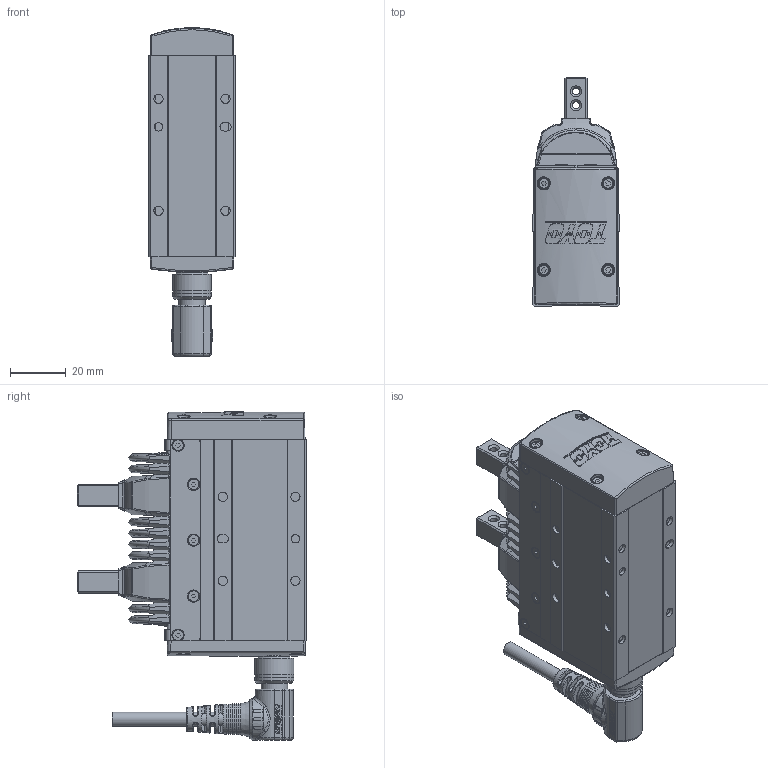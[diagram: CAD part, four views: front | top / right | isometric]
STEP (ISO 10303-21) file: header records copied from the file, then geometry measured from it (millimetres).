
FILE_DESCRIPTION(/* description */ ('STEP AP214'),/* implementation_level */ '2;1');
FILE_NAME(/* name */ 'D:\2025.02.25 帶電匯整給泊舟\3. CHS2系列\4.3D組立\2C-S20\CHS2C-S20-WM.stp',/* time_stamp */ '2025-02-25T18:17:10+08:00',/* author */ ('T10033'),/* organization */ (''),/* preprocessor_version */ 'ST-DEVELOPER v18.1',/* originating_system */ 'Autodesk Inventor 2020',/* authorisation */ '');
FILE_SCHEMA (('CONFIG_CONTROL_DESIGN'));
Products named in the file (8): CHS2-S20加防塵套組合圖-04.2+法蘭; socket head cap screw 4762_din_EN ISO 4762 M2 x 8 - 8S; socket head cap screw_iso_ISO 4762 M2 x 6 - 6S; M12 -14PIN  板端-第一種規格; 22149-000003-02; 12005-000068-02_¹w³]_¾÷¾¹¥
[¤u_; 32534T3_Shrinkwrap_1; M12-14PIN 線端90度接頭-05中繼線
Assembly tree (12 placements, depth 2):
  CHS2-S20加防塵套組合圖-04.2+法蘭
    socket head cap screw 4762_din_EN ISO 4762 M2 x 8 - 8S  x4
    socket head cap screw_iso_ISO 4762 M2 x 6 - 6S  x2
    M12 -14PIN  板端-第一種規格
    22149-000003-02
    12005-000068-02_¹w³]_¾÷¾¹¥
[¤u_  x2
    32534T3_Shrinkwrap_1
    M12-14PIN 線端90度接頭-05中繼線
Bounding box: 31 x 82 x 117.52 mm (x, y, z)
Volume: 130039.8 mm3; surface area: 51427.2 mm2
Topology: 26 solids, 39 shells, 3167 faces, 8811 edges, 5858 vertices
Faces by surface type: plane 1411, cylinder 675, cone 514, bspline 457, torus 102, sphere 8
Full cylindrical faces by diameter (mm): 0.6 x14, 0.65 x14, 1 x14, 1.8 x5, 2 x130, 2.2 x10, 2.5 x8, 2.6 x4, 3 x7, 3.3 x12, 3.8 x16, 4 x4, 4.8 x4, 5 x1, 8 x1, 8.9 x1, 9.5 x2, 9.6 x1, 10.5 x2, 10.9 x1, 11 x2, 11.2 x1, 11.25 x1, 12 x1, 13 x1, 13.8 x1, 14 x2, 14.4 x1, 16.482 x1
Entity records: 144848 total; most frequent: CARTESIAN_POINT 72141, ORIENTED_EDGE 15544, DIRECTION 13847, EDGE_CURVE 7790, AXIS2_PLACEMENT_3D 5220, VERTEX_POINT 5172, LINE 3407, VECTOR 3407
